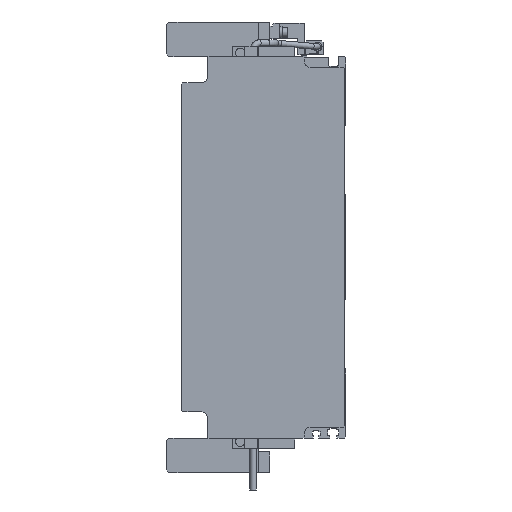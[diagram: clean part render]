
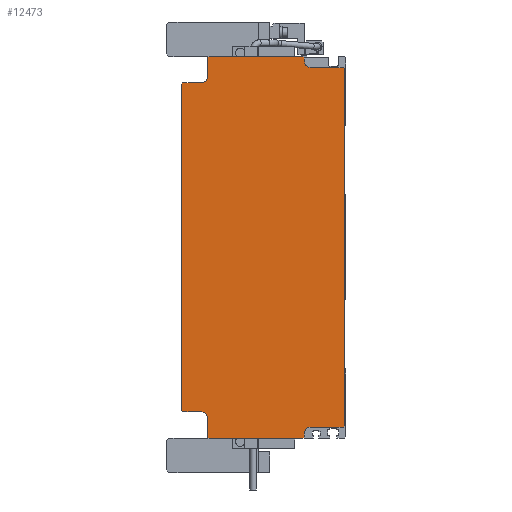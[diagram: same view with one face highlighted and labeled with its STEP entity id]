
A CAD part, left-side view. The second image highlights one B-rep face of the part: STEP entity #12473.
In plain terms, the highlighted planar face has unit normal (-1, 0, 0).
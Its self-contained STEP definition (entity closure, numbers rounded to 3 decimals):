
#241=CIRCLE('',#13233,5.);
#243=CIRCLE('',#13241,5.);
#244=CIRCLE('',#13248,5.);
#245=CIRCLE('',#13255,5.);
#823=ORIENTED_EDGE('',*,*,#4300,.F.);
#824=ORIENTED_EDGE('',*,*,#4372,.F.);
#825=ORIENTED_EDGE('',*,*,#4370,.T.);
#826=ORIENTED_EDGE('',*,*,#4368,.F.);
#827=ORIENTED_EDGE('',*,*,#4366,.F.);
#828=ORIENTED_EDGE('',*,*,#4364,.F.);
#829=ORIENTED_EDGE('',*,*,#4362,.F.);
#830=ORIENTED_EDGE('',*,*,#4360,.F.);
#831=ORIENTED_EDGE('',*,*,#4358,.T.);
#832=ORIENTED_EDGE('',*,*,#4356,.F.);
#833=ORIENTED_EDGE('',*,*,#4354,.F.);
#834=ORIENTED_EDGE('',*,*,#4352,.F.);
#835=ORIENTED_EDGE('',*,*,#4343,.F.);
#836=ORIENTED_EDGE('',*,*,#4340,.F.);
#837=ORIENTED_EDGE('',*,*,#4337,.T.);
#838=ORIENTED_EDGE('',*,*,#4334,.F.);
#839=ORIENTED_EDGE('',*,*,#4331,.F.);
#840=ORIENTED_EDGE('',*,*,#4324,.F.);
#841=ORIENTED_EDGE('',*,*,#4316,.F.);
#842=ORIENTED_EDGE('',*,*,#4313,.F.);
#843=ORIENTED_EDGE('',*,*,#4310,.T.);
#844=ORIENTED_EDGE('',*,*,#4307,.F.);
#845=ORIENTED_EDGE('',*,*,#4304,.F.);
#846=ORIENTED_EDGE('',*,*,#4302,.F.);
#4300=EDGE_CURVE('',#6092,#6093,#7295,.T.);
#4302=EDGE_CURVE('',#6093,#6094,#7297,.T.);
#4304=EDGE_CURVE('',#6094,#6095,#7299,.T.);
#4307=EDGE_CURVE('',#6095,#6097,#7302,.T.);
#4310=EDGE_CURVE('',#6099,#6097,#241,.T.);
#4313=EDGE_CURVE('',#6099,#6101,#7306,.T.);
#4316=EDGE_CURVE('',#6101,#6103,#7309,.T.);
#4324=EDGE_CURVE('',#6103,#6108,#7317,.T.);
#4331=EDGE_CURVE('',#6108,#6113,#7324,.T.);
#4334=EDGE_CURVE('',#6113,#6115,#7327,.T.);
#4337=EDGE_CURVE('',#6117,#6115,#243,.T.);
#4340=EDGE_CURVE('',#6117,#6119,#7331,.T.);
#4343=EDGE_CURVE('',#6119,#6121,#7334,.T.);
#4352=EDGE_CURVE('',#6121,#6127,#7343,.T.);
#4354=EDGE_CURVE('',#6127,#6128,#7345,.T.);
#4356=EDGE_CURVE('',#6128,#6129,#7347,.T.);
#4358=EDGE_CURVE('',#6130,#6129,#244,.T.);
#4360=EDGE_CURVE('',#6130,#6131,#7350,.T.);
#4362=EDGE_CURVE('',#6131,#6132,#7352,.T.);
#4364=EDGE_CURVE('',#6132,#6133,#7354,.T.);
#4366=EDGE_CURVE('',#6133,#6134,#7356,.T.);
#4368=EDGE_CURVE('',#6134,#6135,#7358,.T.);
#4370=EDGE_CURVE('',#6136,#6135,#245,.T.);
#4372=EDGE_CURVE('',#6136,#6092,#7361,.T.);
#6092=VERTEX_POINT('',#18157);
#6093=VERTEX_POINT('',#18159);
#6094=VERTEX_POINT('',#18163);
#6095=VERTEX_POINT('',#18167);
#6097=VERTEX_POINT('',#18173);
#6099=VERTEX_POINT('',#18179);
#6101=VERTEX_POINT('',#18185);
#6103=VERTEX_POINT('',#18191);
#6108=VERTEX_POINT('',#18205);
#6113=VERTEX_POINT('',#18218);
#6115=VERTEX_POINT('',#18224);
#6117=VERTEX_POINT('',#18230);
#6119=VERTEX_POINT('',#18236);
#6121=VERTEX_POINT('',#18242);
#6127=VERTEX_POINT('',#18258);
#6128=VERTEX_POINT('',#18262);
#6129=VERTEX_POINT('',#18266);
#6130=VERTEX_POINT('',#18270);
#6131=VERTEX_POINT('',#18274);
#6132=VERTEX_POINT('',#18278);
#6133=VERTEX_POINT('',#18282);
#6134=VERTEX_POINT('',#18286);
#6135=VERTEX_POINT('',#18290);
#6136=VERTEX_POINT('',#18294);
#7295=LINE('',#18158,#8756);
#7297=LINE('',#18162,#8758);
#7299=LINE('',#18166,#8760);
#7302=LINE('',#18172,#8763);
#7306=LINE('',#18184,#8767);
#7309=LINE('',#18190,#8770);
#7317=LINE('',#18204,#8778);
#7324=LINE('',#18217,#8785);
#7327=LINE('',#18223,#8788);
#7331=LINE('',#18235,#8792);
#7334=LINE('',#18241,#8795);
#7343=LINE('',#18257,#8804);
#7345=LINE('',#18261,#8806);
#7347=LINE('',#18265,#8808);
#7350=LINE('',#18273,#8811);
#7352=LINE('',#18277,#8813);
#7354=LINE('',#18281,#8815);
#7356=LINE('',#18285,#8817);
#7358=LINE('',#18289,#8819);
#7361=LINE('',#18297,#8822);
#8756=VECTOR('',#14462,1000.);
#8758=VECTOR('',#14466,1000.);
#8760=VECTOR('',#14470,1000.);
#8763=VECTOR('',#14475,1000.);
#8767=VECTOR('',#14487,1000.);
#8770=VECTOR('',#14492,1000.);
#8778=VECTOR('',#14502,1000.);
#8785=VECTOR('',#14511,1000.);
#8788=VECTOR('',#14516,1000.);
#8792=VECTOR('',#14528,1000.);
#8795=VECTOR('',#14533,1000.);
#8804=VECTOR('',#14544,1000.);
#8806=VECTOR('',#14548,1000.);
#8808=VECTOR('',#14552,1000.);
#8811=VECTOR('',#14561,1000.);
#8813=VECTOR('',#14565,1000.);
#8815=VECTOR('',#14569,1000.);
#8817=VECTOR('',#14573,1000.);
#8819=VECTOR('',#14577,1000.);
#8822=VECTOR('',#14586,1000.);
#10110=EDGE_LOOP('',(#823,#824,#825,#826,#827,#828,#829,#830,#831,#832,
#833,#834,#835,#836,#837,#838,#839,#840,#841,#842,#843,#844,#845,#846));
#11005=FACE_BOUND('',#10110,.T.);
#11897=PLANE('',#13257);
#12473=ADVANCED_FACE('',(#11005),#11897,.F.);
#13233=AXIS2_PLACEMENT_3D('',#18178,#14481,#14482);
#13241=AXIS2_PLACEMENT_3D('',#18229,#14522,#14523);
#13248=AXIS2_PLACEMENT_3D('',#18269,#14556,#14557);
#13255=AXIS2_PLACEMENT_3D('',#18293,#14581,#14582);
#13257=AXIS2_PLACEMENT_3D('',#18298,#14587,#14588);
#14462=DIRECTION('',(0.,-0.707,0.707));
#14466=DIRECTION('',(0.,-1.,0.));
#14470=DIRECTION('',(0.,-0.707,-0.707));
#14475=DIRECTION('',(0.,0.,-1.));
#14481=DIRECTION('',(1.,0.,0.));
#14482=DIRECTION('',(0.,0.,-1.));
#14487=DIRECTION('',(0.,-1.,0.));
#14492=DIRECTION('',(0.,-0.707,-0.707));
#14502=DIRECTION('',(0.,0.,-1.));
#14511=DIRECTION('',(0.,0.707,-0.707));
#14516=DIRECTION('',(0.,1.,0.));
#14522=DIRECTION('',(1.,0.,0.));
#14523=DIRECTION('',(0.,0.,-1.));
#14528=DIRECTION('',(0.,0.,-1.));
#14533=DIRECTION('',(0.,0.707,-0.707));
#14544=DIRECTION('',(0.,1.,0.));
#14548=DIRECTION('',(0.,0.707,0.707));
#14552=DIRECTION('',(0.,0.,1.));
#14556=DIRECTION('',(1.,0.,0.));
#14557=DIRECTION('',(0.,0.,-1.));
#14561=DIRECTION('',(0.,1.,0.));
#14565=DIRECTION('',(0.,0.707,0.707));
#14569=DIRECTION('',(0.,0.,1.));
#14573=DIRECTION('',(0.,-0.707,0.707));
#14577=DIRECTION('',(0.,-1.,0.));
#14581=DIRECTION('',(1.,0.,0.));
#14582=DIRECTION('',(0.,0.,-1.));
#14586=DIRECTION('',(0.,0.,1.));
#14587=DIRECTION('',(1.,0.,0.));
#14588=DIRECTION('',(0.,0.,-1.));
#18157=CARTESIAN_POINT('',(-20.,99.,137.));
#18158=CARTESIAN_POINT('',(-20.,99.,137.));
#18159=CARTESIAN_POINT('',(-20.,98.,138.));
#18162=CARTESIAN_POINT('',(-20.,98.,138.));
#18163=CARTESIAN_POINT('',(-20.,30.,138.));
#18166=CARTESIAN_POINT('',(-20.,30.,138.));
#18167=CARTESIAN_POINT('',(-20.,29.,137.));
#18172=CARTESIAN_POINT('',(-20.,29.,137.));
#18173=CARTESIAN_POINT('',(-20.,29.,135.));
#18178=CARTESIAN_POINT('',(-20.,24.,135.));
#18179=CARTESIAN_POINT('',(-20.,24.,130.));
#18184=CARTESIAN_POINT('',(-20.,24.,130.));
#18185=CARTESIAN_POINT('',(-20.,1.,130.));
#18190=CARTESIAN_POINT('',(-20.,1.,130.));
#18191=CARTESIAN_POINT('',(-20.,0.,129.));
#18204=CARTESIAN_POINT('',(-20.,0.,129.));
#18205=CARTESIAN_POINT('',(-20.,0.,-129.));
#18217=CARTESIAN_POINT('',(-20.,0.,-129.));
#18218=CARTESIAN_POINT('',(-20.,1.,-130.));
#18223=CARTESIAN_POINT('',(-20.,1.,-130.));
#18224=CARTESIAN_POINT('',(-20.,24.,-130.));
#18229=CARTESIAN_POINT('',(-20.,24.,-135.));
#18230=CARTESIAN_POINT('',(-20.,29.,-135.));
#18235=CARTESIAN_POINT('',(-20.,29.,-135.));
#18236=CARTESIAN_POINT('',(-20.,29.,-137.));
#18241=CARTESIAN_POINT('',(-20.,29.,-137.));
#18242=CARTESIAN_POINT('',(-20.,30.,-138.));
#18257=CARTESIAN_POINT('',(-20.,30.,-138.));
#18258=CARTESIAN_POINT('',(-20.,98.,-138.));
#18261=CARTESIAN_POINT('',(-20.,98.,-138.));
#18262=CARTESIAN_POINT('',(-20.,99.,-137.));
#18265=CARTESIAN_POINT('',(-20.,99.,-137.));
#18266=CARTESIAN_POINT('',(-20.,99.,-124.));
#18269=CARTESIAN_POINT('',(-20.,104.,-124.));
#18270=CARTESIAN_POINT('',(-20.,104.,-119.));
#18273=CARTESIAN_POINT('',(-20.,104.,-119.));
#18274=CARTESIAN_POINT('',(-20.,117.,-119.));
#18277=CARTESIAN_POINT('',(-20.,117.,-119.));
#18278=CARTESIAN_POINT('',(-20.,118.,-118.));
#18281=CARTESIAN_POINT('',(-20.,118.,-118.));
#18282=CARTESIAN_POINT('',(-20.,118.,118.));
#18285=CARTESIAN_POINT('',(-20.,118.,118.));
#18286=CARTESIAN_POINT('',(-20.,117.,119.));
#18289=CARTESIAN_POINT('',(-20.,117.,119.));
#18290=CARTESIAN_POINT('',(-20.,104.,119.));
#18293=CARTESIAN_POINT('',(-20.,104.,124.));
#18294=CARTESIAN_POINT('',(-20.,99.,124.));
#18297=CARTESIAN_POINT('',(-20.,99.,124.));
#18298=CARTESIAN_POINT('',(-20.,24.,135.));
